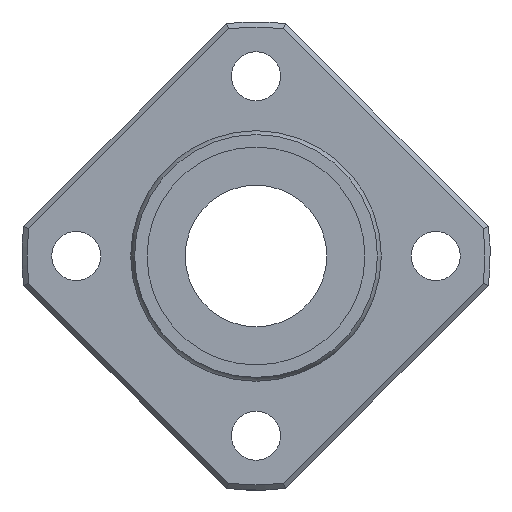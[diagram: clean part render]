
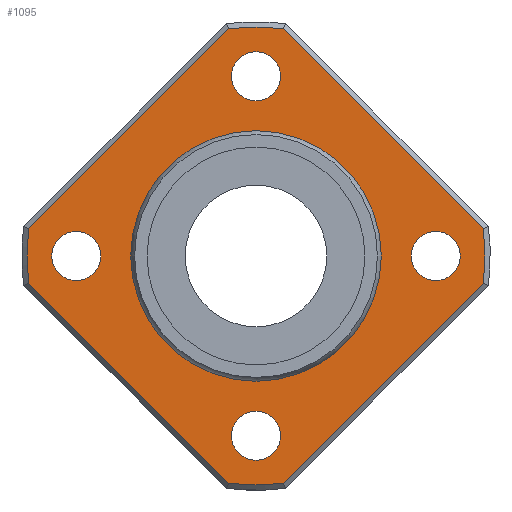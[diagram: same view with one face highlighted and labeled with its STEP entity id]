
A CAD part, left-side view. The second image highlights one B-rep face of the part: STEP entity #1095.
In plain terms, the highlighted planar face has unit normal (-1, 0, 0).
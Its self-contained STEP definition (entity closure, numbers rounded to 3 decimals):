
#671=CARTESIAN_POINT('',(-23.,20.853,2.482));
#672=VERTEX_POINT('',#671);
#680=CARTESIAN_POINT('',(-23.,2.482,20.853));
#681=VERTEX_POINT('',#680);
#682=CARTESIAN_POINT('',(-23.,20.853,2.482));
#683=DIRECTION('',(0.0,-0.707,0.707));
#684=VECTOR('',#683,25.981);
#685=LINE('',#682,#684);
#686=EDGE_CURVE('',#672,#681,#685,.T.);
#713=CARTESIAN_POINT('',(-23.,-2.482,20.853));
#714=VERTEX_POINT('',#713);
#715=CARTESIAN_POINT('',(-23.,0.0,0.0));
#716=DIRECTION('',(1.0,0.0,0.0));
#717=DIRECTION('',(0.0,0.0,1.0));
#718=AXIS2_PLACEMENT_3D('',#715,#716,#717);
#719=CIRCLE('',#718,21.);
#720=EDGE_CURVE('',#681,#714,#719,.T.);
#746=CARTESIAN_POINT('',(-23.,-20.853,2.482));
#747=VERTEX_POINT('',#746);
#748=CARTESIAN_POINT('',(-23.,-2.482,20.853));
#749=DIRECTION('',(0.0,-0.707,-0.707));
#750=VECTOR('',#749,25.981);
#751=LINE('',#748,#750);
#752=EDGE_CURVE('',#714,#747,#751,.T.);
#779=CARTESIAN_POINT('',(-23.,-20.853,-2.482));
#780=VERTEX_POINT('',#779);
#781=CARTESIAN_POINT('',(-23.,0.0,0.0));
#782=DIRECTION('',(1.0,0.0,0.0));
#783=DIRECTION('',(0.0,0.0,1.0));
#784=AXIS2_PLACEMENT_3D('',#781,#782,#783);
#785=CIRCLE('',#784,21.);
#786=EDGE_CURVE('',#747,#780,#785,.T.);
#812=CARTESIAN_POINT('',(-23.,-2.482,-20.853));
#813=VERTEX_POINT('',#812);
#814=CARTESIAN_POINT('',(-23.,-20.853,-2.482));
#815=DIRECTION('',(0.0,0.707,-0.707));
#816=VECTOR('',#815,25.981);
#817=LINE('',#814,#816);
#818=EDGE_CURVE('',#780,#813,#817,.T.);
#845=CARTESIAN_POINT('',(-23.,2.482,-20.853));
#846=VERTEX_POINT('',#845);
#847=CARTESIAN_POINT('',(-23.,0.0,0.0));
#848=DIRECTION('',(1.0,0.0,0.0));
#849=DIRECTION('',(0.0,0.0,-1.0));
#850=AXIS2_PLACEMENT_3D('',#847,#848,#849);
#851=CIRCLE('',#850,21.);
#852=EDGE_CURVE('',#813,#846,#851,.T.);
#878=CARTESIAN_POINT('',(-23.,20.853,-2.482));
#879=VERTEX_POINT('',#878);
#880=CARTESIAN_POINT('',(-23.,2.482,-20.853));
#881=DIRECTION('',(0.0,0.707,0.707));
#882=VECTOR('',#881,25.981);
#883=LINE('',#880,#882);
#884=EDGE_CURVE('',#846,#879,#883,.T.);
#909=CARTESIAN_POINT('',(-23.,0.0,0.0));
#910=DIRECTION('',(1.0,0.0,0.0));
#911=DIRECTION('',(0.0,0.0,1.0));
#912=AXIS2_PLACEMENT_3D('',#909,#910,#911);
#913=CIRCLE('',#912,21.);
#914=EDGE_CURVE('',#879,#672,#913,.T.);
#1025=CARTESIAN_POINT('',(-23.,0.0,16.393));
#1026=DIRECTION('',(-1.0,0.0,0.0));
#1027=DIRECTION('',(0.0,0.0,1.0));
#1028=AXIS2_PLACEMENT_3D('',#1025,#1026,#1027);
#1029=PLANE('',#1028);
#1030=ORIENTED_EDGE('',*,*,#686,.F.);
#1031=ORIENTED_EDGE('',*,*,#914,.F.);
#1032=ORIENTED_EDGE('',*,*,#884,.F.);
#1033=ORIENTED_EDGE('',*,*,#852,.F.);
#1034=ORIENTED_EDGE('',*,*,#818,.F.);
#1035=ORIENTED_EDGE('',*,*,#786,.F.);
#1036=ORIENTED_EDGE('',*,*,#752,.F.);
#1037=ORIENTED_EDGE('',*,*,#720,.F.);
#1038=EDGE_LOOP('',(#1030,#1031,#1032,#1033,#1034,#1035,#1036,#1037));
#1039=FACE_OUTER_BOUND('',#1038,.T.);
#1040=CARTESIAN_POINT('',(-23.,0.0,11.286));
#1041=VERTEX_POINT('',#1040);
#1042=CARTESIAN_POINT('',(-23.,0.0,0.0));
#1043=DIRECTION('',(-1.0,0.0,0.0));
#1044=DIRECTION('',(0.0,0.0,1.0));
#1045=AXIS2_PLACEMENT_3D('',#1042,#1043,#1044);
#1046=CIRCLE('',#1045,11.286);
#1047=EDGE_CURVE('',#1041,#1041,#1046,.T.);
#1048=ORIENTED_EDGE('',*,*,#1047,.F.);
#1049=EDGE_LOOP('',(#1048));
#1050=FACE_BOUND('',#1049,.T.);
#1051=CARTESIAN_POINT('',(-23.,14.25,0.));
#1052=VERTEX_POINT('',#1051);
#1053=CARTESIAN_POINT('',(-23.,16.5,0.));
#1054=DIRECTION('',(1.0,0.0,0.0));
#1055=DIRECTION('',(0.0,1.0,0.0));
#1056=AXIS2_PLACEMENT_3D('',#1053,#1054,#1055);
#1057=CIRCLE('',#1056,2.25);
#1058=EDGE_CURVE('',#1052,#1052,#1057,.T.);
#1059=ORIENTED_EDGE('',*,*,#1058,.T.);
#1060=EDGE_LOOP('',(#1059));
#1061=FACE_BOUND('',#1060,.T.);
#1062=CARTESIAN_POINT('',(-23.,-18.75,0.));
#1063=VERTEX_POINT('',#1062);
#1064=CARTESIAN_POINT('',(-23.,-16.5,0.0));
#1065=DIRECTION('',(1.0,0.0,0.0));
#1066=DIRECTION('',(0.0,1.0,0.0));
#1067=AXIS2_PLACEMENT_3D('',#1064,#1065,#1066);
#1068=CIRCLE('',#1067,2.25);
#1069=EDGE_CURVE('',#1063,#1063,#1068,.T.);
#1070=ORIENTED_EDGE('',*,*,#1069,.T.);
#1071=EDGE_LOOP('',(#1070));
#1072=FACE_BOUND('',#1071,.T.);
#1073=CARTESIAN_POINT('',(-23.,-2.25,16.5));
#1074=VERTEX_POINT('',#1073);
#1075=CARTESIAN_POINT('',(-23.,0.,16.5));
#1076=DIRECTION('',(1.0,0.0,0.0));
#1077=DIRECTION('',(0.0,1.0,0.0));
#1078=AXIS2_PLACEMENT_3D('',#1075,#1076,#1077);
#1079=CIRCLE('',#1078,2.25);
#1080=EDGE_CURVE('',#1074,#1074,#1079,.T.);
#1081=ORIENTED_EDGE('',*,*,#1080,.T.);
#1082=EDGE_LOOP('',(#1081));
#1083=FACE_BOUND('',#1082,.T.);
#1084=CARTESIAN_POINT('',(-23.,-2.25,-16.5));
#1085=VERTEX_POINT('',#1084);
#1086=CARTESIAN_POINT('',(-23.,0.,-16.5));
#1087=DIRECTION('',(1.0,0.0,0.0));
#1088=DIRECTION('',(0.0,1.0,0.0));
#1089=AXIS2_PLACEMENT_3D('',#1086,#1087,#1088);
#1090=CIRCLE('',#1089,2.25);
#1091=EDGE_CURVE('',#1085,#1085,#1090,.T.);
#1092=ORIENTED_EDGE('',*,*,#1091,.T.);
#1093=EDGE_LOOP('',(#1092));
#1094=FACE_BOUND('',#1093,.T.);
#1095=ADVANCED_FACE('',(#1039,#1050,#1061,#1072,#1083,#1094),#1029,.T.);
